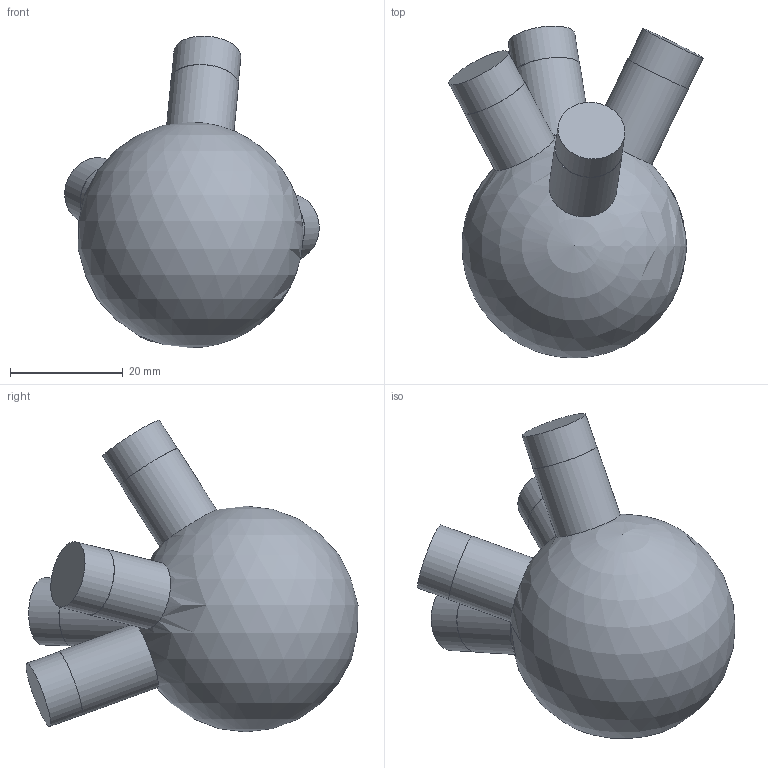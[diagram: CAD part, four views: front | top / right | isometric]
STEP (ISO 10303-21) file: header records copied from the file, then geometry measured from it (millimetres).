
FILE_DESCRIPTION(('Open CASCADE Model'),'2;1');
FILE_NAME('Open CASCADE Shape Model','2026-10-21T12:47:57',('Author'),( 'Open CASCADE'),'Open CASCADE STEP processor 7.9','Open CASCADE 7.9' ,'Unknown');
FILE_SCHEMA(('AUTOMOTIVE_DESIGN { 1 0 10303 214 1 1 1 1 }'));
Length unit declared in the file: millimetre
Products named in the file (1): Open CASCADE STEP translator 7.9 21
Bounding box: 45.11 x 58.83 x 55.23 mm (x, y, z)
Volume: 42074.4 mm3; surface area: 7948.1 mm2
Topology: 1 solids, 1 shells, 17 faces, 27 edges, 18 vertices
Faces by surface type: cylinder 8, plane 8, sphere 1
Full cylindrical faces by diameter (mm): 11.9 x4, 12 x4
Entity records: 962 total; most frequent: CARTESIAN_POINT 377, DIRECTION 120, ORIENTED_EDGE 48, PCURVE 48, DEFINITIONAL_REPRESENTATION 48, LINE 40, VECTOR 40, AXIS2_PLACEMENT_3D 34
